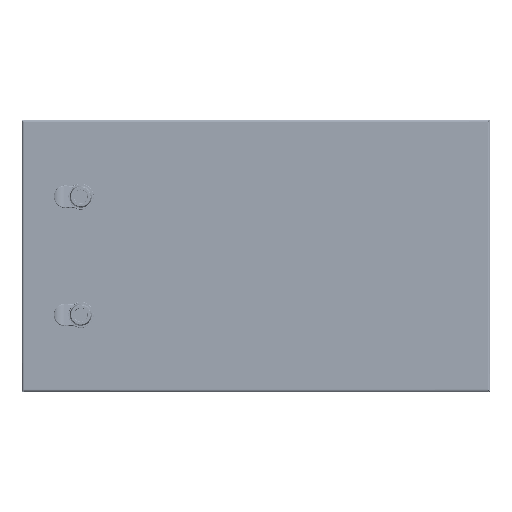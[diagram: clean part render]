
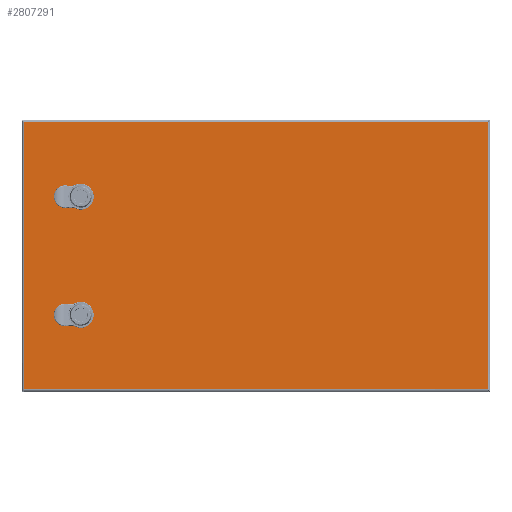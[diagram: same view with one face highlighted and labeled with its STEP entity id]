
A CAD part, top view. The second image highlights one B-rep face of the part: STEP entity #2807291.
In plain terms, the highlighted planar face has unit normal (0, 0, 1).
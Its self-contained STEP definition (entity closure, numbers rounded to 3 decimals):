
#2801541=CARTESIAN_POINT(' ',(284.635,176.56,228.253));
#2801542=VERTEX_POINT(' ',#2801541);
#2802206=CARTESIAN_POINT(' ',(284.635,-162.84,228.253));
#2802207=VERTEX_POINT(' ',#2802206);
#2803051=CARTESIAN_POINT(' ',(284.635,176.56,228.253));
#2803056=DIRECTION(' ',(0.,-1.,0.));
#2803061=VECTOR(' ',#2803056,1.);
#2803066=LINE('',#2803051,#2803061);
#2803071=EDGE_CURVE(' ',#2801542,#2802207,#2803066,.T.);
#2805056=CARTESIAN_POINT(' ',(-303.765,-162.84,228.253));
#2805057=VERTEX_POINT(' ',#2805056);
#2805491=CARTESIAN_POINT(' ',(-303.765,176.56,228.253));
#2805492=VERTEX_POINT(' ',#2805491);
#2807161=DIRECTION(' ',(-0.,-0.,1.));
#2807166=CARTESIAN_POINT(' ',(284.635,-162.84,228.253));
#2807171=DIRECTION(' ',(0.,1.,0.));
#2807176=AXIS2_PLACEMENT_3D(' ',#2807166,#2807161,#2807171);
#2807181=PLANE('NONE',#2807176);
#2807186=CARTESIAN_POINT(' ',(-303.765,-162.84,228.253));
#2807191=DIRECTION(' ',(1.,0.,0.));
#2807196=VECTOR(' ',#2807191,1.);
#2807201=LINE('',#2807186,#2807196);
#2807206=EDGE_CURVE(' ',#2805057,#2802207,#2807201,.T.);
#2807211=ORIENTED_EDGE(' ',*,*,#2807206,.T.);
#2807216=ORIENTED_EDGE(' ',*,*,#2803071,.F.);
#2807221=CARTESIAN_POINT(' ',(284.635,176.56,228.253));
#2807226=DIRECTION(' ',(-1.,0.,0.));
#2807231=VECTOR(' ',#2807226,1.);
#2807236=LINE('',#2807221,#2807231);
#2807241=EDGE_CURVE(' ',#2801542,#2805492,#2807236,.T.);
#2807246=ORIENTED_EDGE(' ',*,*,#2807241,.T.);
#2807251=CARTESIAN_POINT(' ',(-303.765,176.56,228.253));
#2807256=DIRECTION(' ',(0.,-1.,0.));
#2807261=VECTOR(' ',#2807256,1.);
#2807266=LINE('',#2807251,#2807261);
#2807271=EDGE_CURVE(' ',#2805492,#2805057,#2807266,.T.);
#2807276=ORIENTED_EDGE(' ',*,*,#2807271,.T.);
#2807281=EDGE_LOOP(' ',(#2807211,#2807216,#2807246,#2807276));
#2807286=FACE_OUTER_BOUND(' ',#2807281,.T.);
#2807291=ADVANCED_FACE('NONE',(#2807286),#2807181,.T.);
